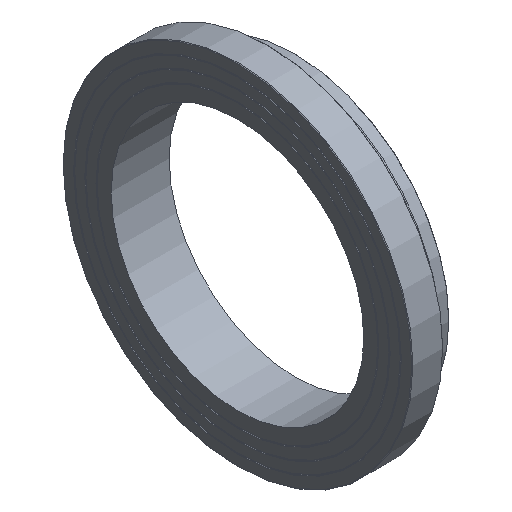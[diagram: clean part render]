
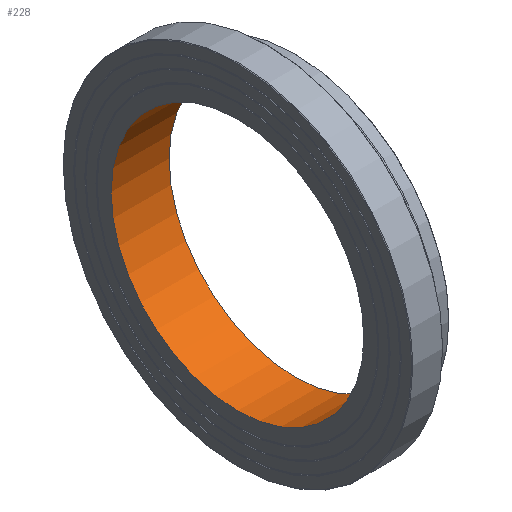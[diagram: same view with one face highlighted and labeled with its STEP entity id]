
A CAD part, isometric view. The second image highlights one B-rep face of the part: STEP entity #228.
In plain terms, the highlighted cylindrical face has radius 327.2 mm (diameter 654.4 mm), a full revolution.
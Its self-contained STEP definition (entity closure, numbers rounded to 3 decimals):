
#33=CYLINDRICAL_SURFACE('',#274,327.2);
#50=ORIENTED_EDGE('',*,*,#79,.F.);
#51=ORIENTED_EDGE('',*,*,#76,.T.);
#76=EDGE_CURVE('',#96,#96,#116,.T.);
#79=EDGE_CURVE('',#99,#99,#119,.T.);
#96=VERTEX_POINT('',#383);
#99=VERTEX_POINT('',#390);
#116=CIRCLE('',#257,327.2);
#119=CIRCLE('',#261,327.2);
#150=EDGE_LOOP('',(#50));
#151=EDGE_LOOP('',(#51));
#190=FACE_BOUND('',#150,.T.);
#191=FACE_BOUND('',#151,.T.);
#228=ADVANCED_FACE('',(#190,#191),#33,.F.);
#257=AXIS2_PLACEMENT_3D('',#382,#303,#304);
#261=AXIS2_PLACEMENT_3D('',#389,#311,#312);
#274=AXIS2_PLACEMENT_3D('',#410,#337,#338);
#303=DIRECTION('',(-1.,0.,0.));
#304=DIRECTION('',(0.,0.,1.));
#311=DIRECTION('',(-1.,0.,0.));
#312=DIRECTION('',(0.,0.,1.));
#337=DIRECTION('',(-1.,0.,0.));
#338=DIRECTION('',(0.,0.,1.));
#382=CARTESIAN_POINT('',(0.,0.,0.));
#383=CARTESIAN_POINT('',(0.,0.,327.2));
#389=CARTESIAN_POINT('',(150.,0.,0.));
#390=CARTESIAN_POINT('',(150.,0.,327.2));
#410=CARTESIAN_POINT('',(60.,0.,0.));
